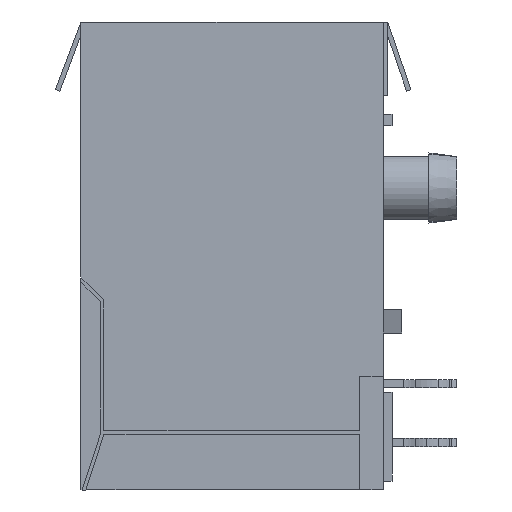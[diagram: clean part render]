
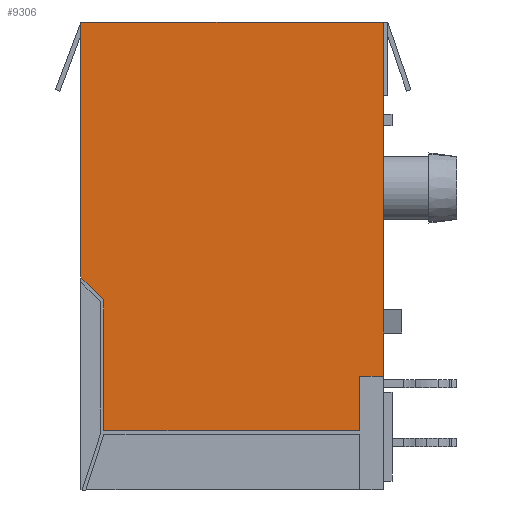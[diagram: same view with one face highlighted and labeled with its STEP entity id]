
A CAD part, left-side view. The second image highlights one B-rep face of the part: STEP entity #9306.
In plain terms, the highlighted planar face has unit normal (-1, 0, 0).
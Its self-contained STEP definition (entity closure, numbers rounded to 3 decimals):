
#180 = EDGE_CURVE ( 'NONE', #10151, #10150, #2876, .T. ) ;
#186 = EDGE_CURVE ( 'NONE', #10150, #10164, #2875, .T. ) ;
#190 = EDGE_CURVE ( 'NONE', #10164, #10144, #2886, .T. ) ;
#193 = EDGE_CURVE ( 'NONE', #10144, #10141, #2894, .T. ) ;
#196 = EDGE_CURVE ( 'NONE', #10141, #10138, #2906, .T. ) ;
#197 = EDGE_CURVE ( 'NONE', #10207, #10200, #2908, .T. ) ;
#201 = EDGE_CURVE ( 'NONE', #10139, #10151, #2916, .T. ) ;
#1138 = EDGE_CURVE ( 'NONE', #10139, #10200, #4340, .T. ) ;
#1139 = EDGE_CURVE ( 'NONE', #9836, #10138, #4342, .T. ) ;
#1140 = EDGE_CURVE ( 'NONE', #10207, #9836, #4344, .T. ) ;
#1441 = ORIENTED_EDGE ( 'NONE', *, *, #1138, .F. ) ;
#1442 = ORIENTED_EDGE ( 'NONE', *, *, #201, .T. ) ;
#1443 = ORIENTED_EDGE ( 'NONE', *, *, #180, .T. ) ;
#1444 = ORIENTED_EDGE ( 'NONE', *, *, #186, .T. ) ;
#1445 = ORIENTED_EDGE ( 'NONE', *, *, #190, .T. ) ;
#1446 = ORIENTED_EDGE ( 'NONE', *, *, #193, .T. ) ;
#1447 = ORIENTED_EDGE ( 'NONE', *, *, #196, .T. ) ;
#1448 = ORIENTED_EDGE ( 'NONE', *, *, #1139, .F. ) ;
#1449 = ORIENTED_EDGE ( 'NONE', *, *, #1140, .F. ) ;
#1450 = ORIENTED_EDGE ( 'NONE', *, *, #197, .T. ) ;
#2842 = CARTESIAN_POINT ( 'NONE',  ( -6.75, 6.65, 20.5 ) ) ;
#2853 = CARTESIAN_POINT ( 'NONE',  ( -6.75, 6.65, 9.44 ) ) ;
#2855 = DIRECTION ( 'NONE',  ( 0., 0., -1. ) ) ;
#2856 = CARTESIAN_POINT ( 'NONE',  ( -6.75, 5.654, 20.5 ) ) ;
#2865 = CARTESIAN_POINT ( 'NONE',  ( -6.75, 6.85, 2.773 ) ) ;
#2867 = DIRECTION ( 'NONE',  ( 0., -0.707, -0.707 ) ) ;
#2875 = LINE ( 'NONE', #2853, #2889 ) ;
#2876 = LINE ( 'NONE', #2842, #2877 ) ;
#2877 = VECTOR ( 'NONE', #2855, 1000. ) ;
#2886 = LINE ( 'NONE', #2856, #2897 ) ;
#2889 = VECTOR ( 'NONE', #2867, 1000. ) ;
#2894 = LINE ( 'NONE', #2865, #2903 ) ;
#2897 = VECTOR ( 'NONE', #3459, 1000. ) ;
#2903 = VECTOR ( 'NONE', #3465, 1000. ) ;
#2906 = LINE ( 'NONE', #3470, #2909 ) ;
#2908 = LINE ( 'NONE', #3472, #2911 ) ;
#2909 = VECTOR ( 'NONE', #3471, 1000. ) ;
#2911 = VECTOR ( 'NONE', #3473, 1000. ) ;
#2916 = LINE ( 'NONE', #3480, #2919 ) ;
#2919 = VECTOR ( 'NONE', #3481, 1000. ) ;
#3459 = DIRECTION ( 'NONE',  ( 0., 0., -1. ) ) ;
#3465 = DIRECTION ( 'NONE',  ( 0., -1., 0. ) ) ;
#3470 = CARTESIAN_POINT ( 'NONE',  ( -6.75, -5.45, 20.5 ) ) ;
#3471 = DIRECTION ( 'NONE',  ( 0., 0., 1. ) ) ;
#3472 = CARTESIAN_POINT ( 'NONE',  ( -6.75, -6.47, 20.5 ) ) ;
#3473 = DIRECTION ( 'NONE',  ( 0., 0., 1. ) ) ;
#3480 = CARTESIAN_POINT ( 'NONE',  ( -6.75, 6.85, 20.5 ) ) ;
#3481 = DIRECTION ( 'NONE',  ( 0., 1., 0. ) ) ;
#4340 = LINE ( 'NONE', #4917, #4343 ) ;
#4342 = LINE ( 'NONE', #4919, #4345 ) ;
#4343 = VECTOR ( 'NONE', #4918, 1000. ) ;
#4344 = LINE ( 'NONE', #4921, #4347 ) ;
#4345 = VECTOR ( 'NONE', #4920, 1000. ) ;
#4347 = VECTOR ( 'NONE', #4922, 1000. ) ;
#4876 = FACE_OUTER_BOUND ( 'NONE', #10651, .T. ) ;
#4917 = CARTESIAN_POINT ( 'NONE',  ( -6.75, -6.47, 11.05 ) ) ;
#4918 = DIRECTION ( 'NONE',  ( 0., 0., -1. ) ) ;
#4919 = CARTESIAN_POINT ( 'NONE',  ( -6.75, -5.45, 5.129 ) ) ;
#4920 = DIRECTION ( 'NONE',  ( 0., 1., 0. ) ) ;
#4921 = CARTESIAN_POINT ( 'NONE',  ( -6.75, -6.47, 11.05 ) ) ;
#4922 = DIRECTION ( 'NONE',  ( 0., 0., -1. ) ) ;
#5409 = AXIS2_PLACEMENT_3D ( 'NONE', #5785, #5794, #5795 ) ;
#5785 = CARTESIAN_POINT ( 'NONE',  ( -6.75, 6.85, 20.5 ) ) ;
#5792 = PLANE ( 'NONE',  #5409 ) ;
#5794 = DIRECTION ( 'NONE',  ( 1., 0., 0. ) ) ;
#5795 = DIRECTION ( 'NONE',  ( 0., 0., -1. ) ) ;
#8114 = CARTESIAN_POINT ( 'NONE',  ( -6.75, -6.47, 5.129 ) ) ;
#8416 = CARTESIAN_POINT ( 'NONE',  ( -6.75, -5.45, 5.129 ) ) ;
#8417 = CARTESIAN_POINT ( 'NONE',  ( -6.75, -6.47, 20.5 ) ) ;
#8419 = CARTESIAN_POINT ( 'NONE',  ( -6.75, -5.45, 2.773 ) ) ;
#8422 = CARTESIAN_POINT ( 'NONE',  ( -6.75, 5.654, 2.773 ) ) ;
#8428 = CARTESIAN_POINT ( 'NONE',  ( -6.75, 6.65, 9.44 ) ) ;
#8429 = CARTESIAN_POINT ( 'NONE',  ( -6.75, 6.65, 20.5 ) ) ;
#8442 = CARTESIAN_POINT ( 'NONE',  ( -6.75, 5.654, 8.443 ) ) ;
#8478 = CARTESIAN_POINT ( 'NONE',  ( -6.75, -6.47, 8.01 ) ) ;
#8485 = CARTESIAN_POINT ( 'NONE',  ( -6.75, -6.47, 7.01 ) ) ;
#9306 = ADVANCED_FACE ( 'NONE', ( #4876 ), #5792, .F. ) ;
#9836 = VERTEX_POINT ( 'NONE', #8114 ) ;
#10138 = VERTEX_POINT ( 'NONE', #8416 ) ;
#10139 = VERTEX_POINT ( 'NONE', #8417 ) ;
#10141 = VERTEX_POINT ( 'NONE', #8419 ) ;
#10144 = VERTEX_POINT ( 'NONE', #8422 ) ;
#10150 = VERTEX_POINT ( 'NONE', #8428 ) ;
#10151 = VERTEX_POINT ( 'NONE', #8429 ) ;
#10164 = VERTEX_POINT ( 'NONE', #8442 ) ;
#10200 = VERTEX_POINT ( 'NONE', #8478 ) ;
#10207 = VERTEX_POINT ( 'NONE', #8485 ) ;
#10651 = EDGE_LOOP ( 'NONE', ( #1441, #1442, #1443, #1444, #1445, #1446, #1447, #1448, #1449, #1450 ) ) ;
